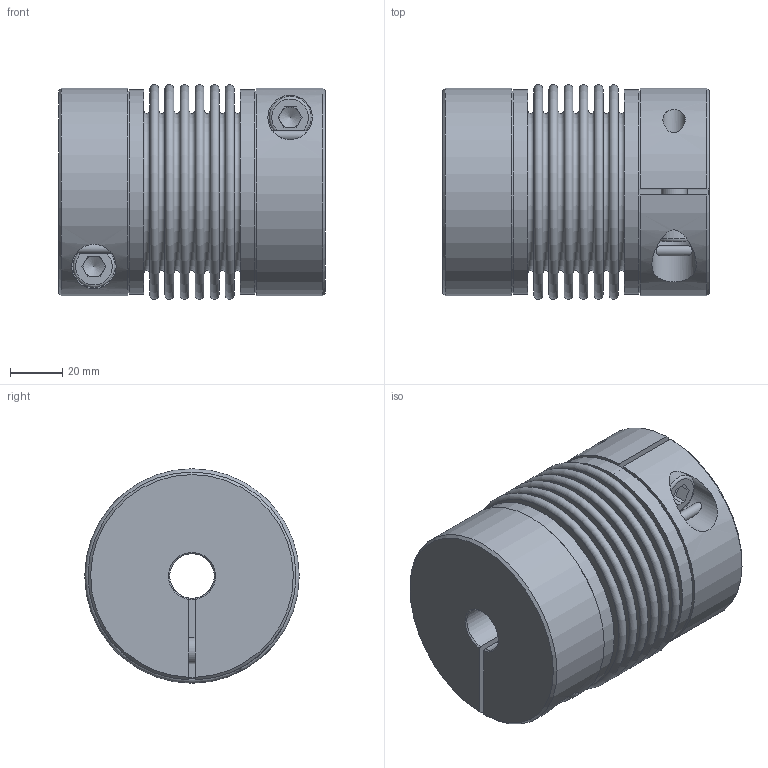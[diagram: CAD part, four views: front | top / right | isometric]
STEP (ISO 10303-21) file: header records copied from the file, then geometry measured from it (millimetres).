
FILE_DESCRIPTION(/* description */ ('Unknown'),/* implementation_level */ '2;1');
FILE_NAME(/* name */ 'KM 80 - 102',/* time_stamp */ '2020-05-07T07:58:38+03:00',/* author */ ('Unknown'),/* organization */ ('Unknown'),/* preprocessor_version */ 'ST-DEVELOPER v16.7',/* originating_system */ 'DEX',/* authorisation */ $);
FILE_SCHEMA (('AUTOMOTIVE_DESIGN {1 0 10303 214 3 1 1}'));
Length unit declared in the file: millimetre
Products named in the file (1): KM  80 - 102
Bounding box: 102 x 82 x 82 mm (x, y, z)
Volume: 309724 mm3; surface area: 115467.5 mm2
Topology: 1 solids, 1 shells, 134 faces, 278 edges, 180 vertices
Faces by surface type: plane 74, torus 28, cylinder 24, cone 8
Full cylindrical faces by diameter (mm): 8.5 x2, 10 x2, 10.5 x2, 16 x2, 17 x2, 78.3 x2
Entity records: 4427 total; most frequent: CARTESIAN_POINT 764, DIRECTION 604, ORIENTED_EDGE 436, AXIS2_PLACEMENT_3D 257, FACE_BOUND 220, EDGE_CURVE 218, EDGE_LOOP 218, VERTEX_POINT 166
